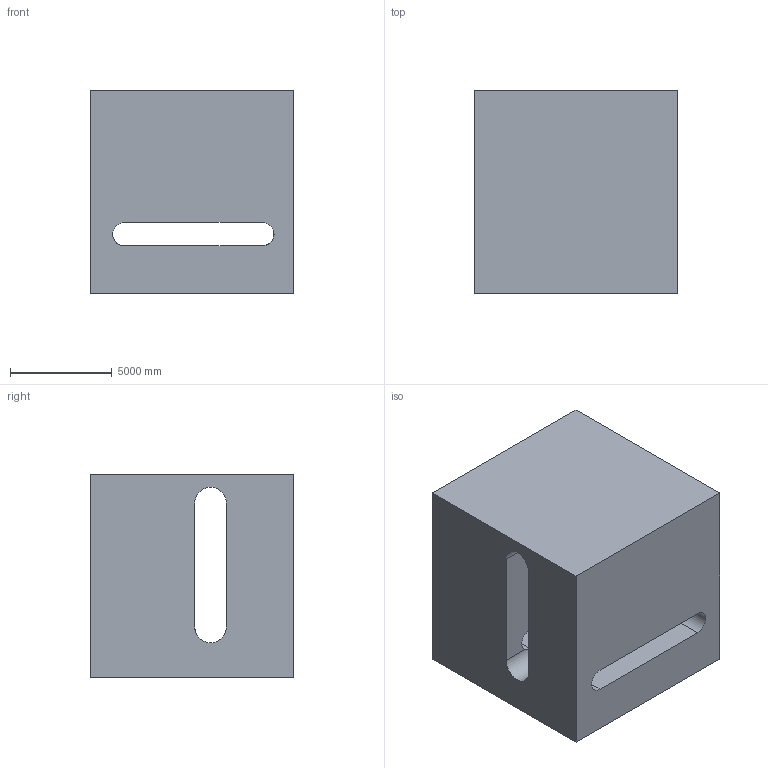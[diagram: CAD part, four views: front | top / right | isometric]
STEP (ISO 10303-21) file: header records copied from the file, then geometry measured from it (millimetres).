
FILE_DESCRIPTION (( 'STEP AP203' ), '1' );
FILE_NAME ('28.STEP', '2022-07-28T13:26:34', ( 'user' ), ( '' ), 'SwSTEP 2.0', 'SolidWorks 2021', '' );
FILE_SCHEMA (( 'CONFIG_CONTROL_DESIGN' ));
Length unit declared in the file: centimetre
Products named in the file (1): 28
Bounding box: 10000 x 10000 x 10000 mm (x, y, z)
Volume: 811182746038.5 mm3; surface area: 857792758.1 mm2
Topology: 1 solids, 1 shells, 19 faces, 57 edges, 38 vertices
Faces by surface type: plane 12, cylinder 7
Entity records: 834 total; most frequent: CARTESIAN_POINT 223, ORIENTED_EDGE 114, DIRECTION 107, EDGE_CURVE 57, VECTOR 39, LINE 39, VERTEX_POINT 38, AXIS2_PLACEMENT_3D 34
